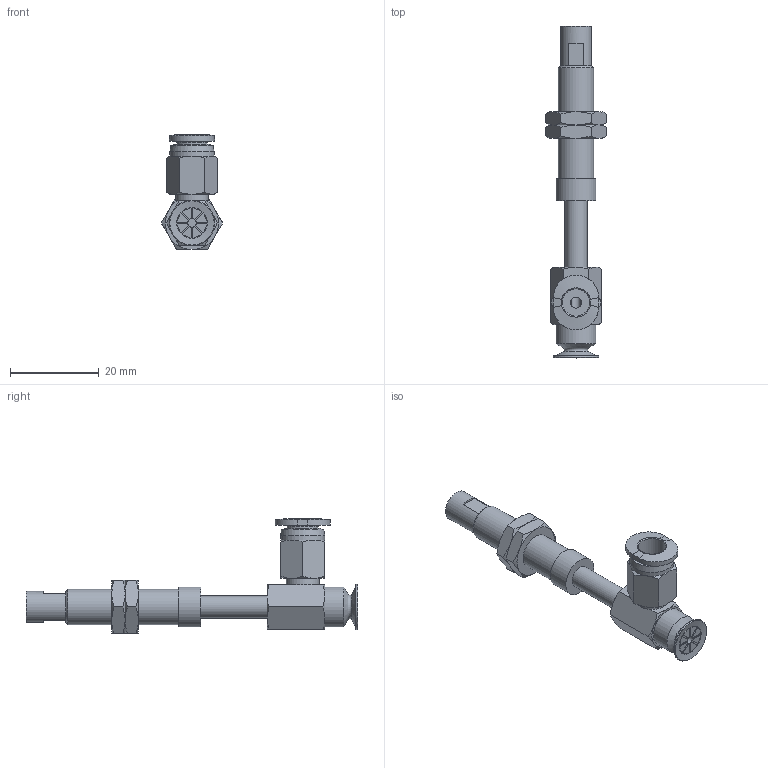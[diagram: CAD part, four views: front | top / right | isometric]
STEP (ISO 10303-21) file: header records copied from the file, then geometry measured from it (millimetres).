
FILE_DESCRIPTION(('STEP AP203'),'1');
FILE_NAME('-O.stp','2025-02-11T07:46:55',(' '),(' '),'Spatial InterOp 3D',' ',' ');
FILE_SCHEMA(('CONFIG_CONTROL_DESIGN'));
Length unit declared in the file: millimetre
Products named in the file (7): BNABPAYS-10B-15-※-O; NAPAYS-10A-15--M; NAPAYS-10A-15--F; Nut-10A-S; CONNECTOR-10A-15-PA; BPAG-10B-※_3D; PC-C_06-M5
Assembly tree (7 placements, depth 2):
  BNABPAYS-10B-15-※-O
    NAPAYS-10A-15--M
    NAPAYS-10A-15--F
    Nut-10A-S  x2
    CONNECTOR-10A-15-PA
    BPAG-10B-※_3D
    PC-C_06-M5
Bounding box: 13.86 x 75 x 25.98 mm (x, y, z)
Volume: 3958.3 mm3; surface area: 5912.3 mm2
Topology: 6 solids, 9 shells, 214 faces, 472 edges, 290 vertices
Faces by surface type: plane 92, cone 67, cylinder 35, torus 13, bspline 4, revolution 3
Full cylindrical faces by diameter (mm): 2 x2, 4 x4, 4.134 x2, 5 x4, 6 x2, 7 x3, 7.188 x2, 7.4 x1, 8 x1, 8.2 x1, 9 x2, 10 x1
Entity records: 5738 total; most frequent: CARTESIAN_POINT 1508, DIRECTION 815, ORIENTED_EDGE 716, EDGE_CURVE 360, AXIS2_PLACEMENT_3D 345, EDGE_LOOP 272, VERTEX_POINT 252, FACE_OUTER_BOUND 168
